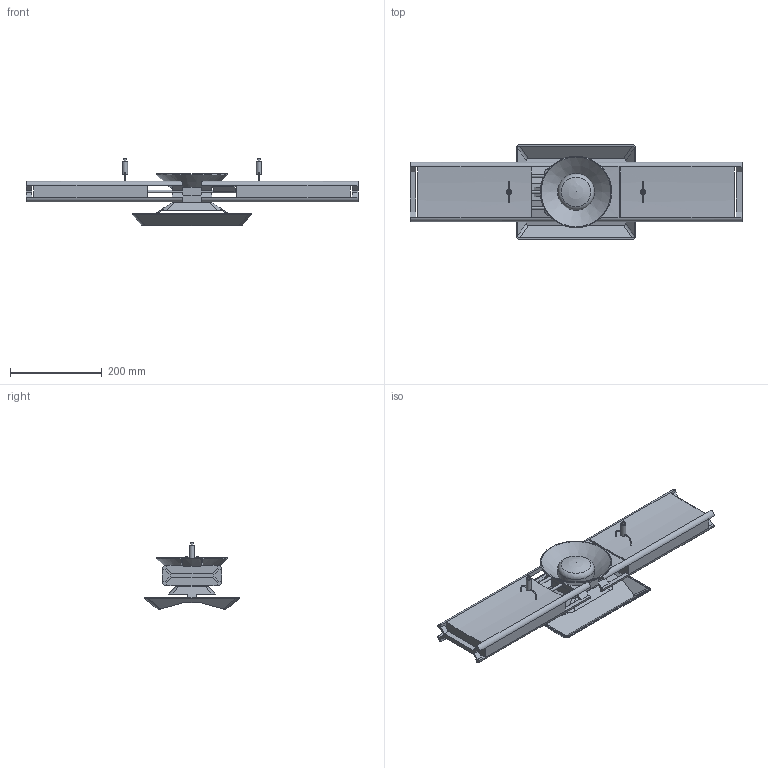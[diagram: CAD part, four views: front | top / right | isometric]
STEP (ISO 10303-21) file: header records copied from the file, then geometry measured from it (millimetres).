
FILE_DESCRIPTION(/* description */ (''),/* implementation_level */ '2;1');
FILE_NAME(/* name */ 'CL02_CL03_A.stp',/* time_stamp */ '2017-03-21T17:35:54+00:00',/* author */ (''),/* organization */ (''),/* preprocessor_version */ 'ST-DEVELOPER v15',/* originating_system */ 'SIEMENS PLM Software NX 8.5',/* authorisation */ '');
FILE_SCHEMA (('AP203_CONFIGURATION_CONTROLLED_3D_DESIGN_OF_MECHANICAL_PARTS_AND_ASSEMBLIES_MIM_LF { 1 0 10303 403 2 1 2}'));
Length unit declared in the file: millimetre
Products named in the file (1): wdar09745CC16bbr
Bounding box: 725 x 206 x 146.74 mm (x, y, z)
Volume: 3487867.2 mm3; surface area: 454355.2 mm2
Topology: 1 solids, 1 shells, 278 faces, 852 edges, 545 vertices
Faces by surface type: plane 185, cylinder 64, cone 9, bspline 8, torus 7, sphere 5
Full cylindrical faces by diameter (mm): 2 x8, 5.8 x2, 6 x6, 11 x2, 80 x1
Entity records: 10082 total; most frequent: CARTESIAN_POINT 2718, ORIENTED_EDGE 1566, DIRECTION 1398, EDGE_CURVE 783, LINE 562, VECTOR 562, VERTEX_POINT 520, AXIS2_PLACEMENT_3D 418
